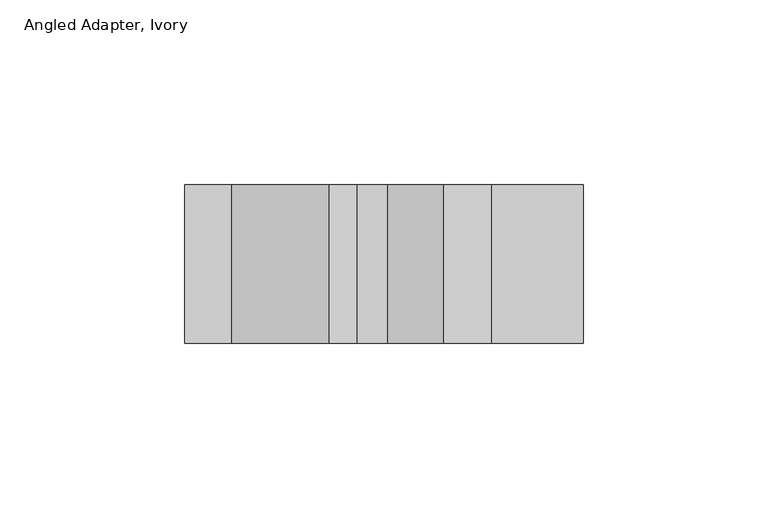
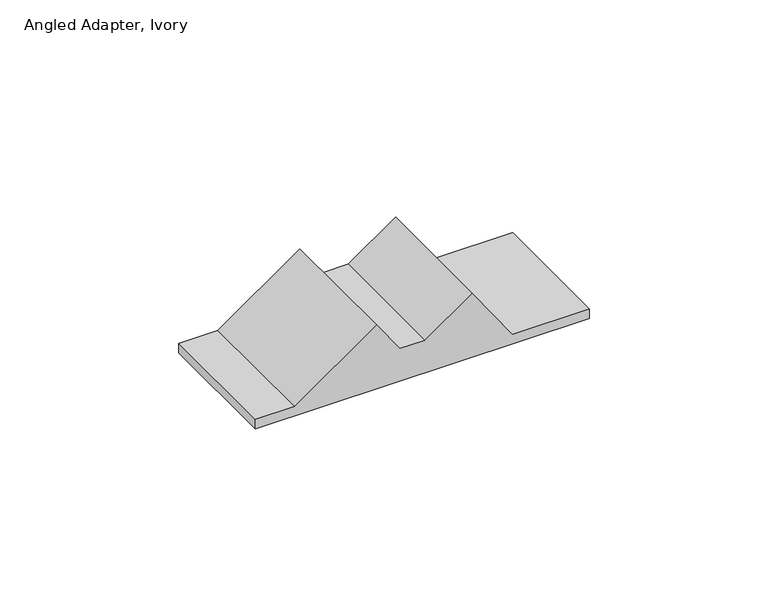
"""IFC4 building model written with IfcOpenShell, lengths in millimetres: proxy geometry, Face_Plate-4000_Series-Wiremold : Angled Adapter, Ivory."""

from ifc_helpers import new_model, si_unit, frame, origin, place, context, project, spatial, polyline, outline, extrude, source, transform, mapped, element, save


def angled_adapter_ivory_76baae0c(model_context):
    return source(origin(), model_context, "Body", "SweptSolid", [
        extrude(outline(polyline([(11.1252, 0.8391049), (11.1252, -7.2888951), (21.844, -14.7942797), (3.302, -41.275), (3.302, -53.975), (0.0, -53.975), (0.0, 53.975), (3.302, 53.975), (3.302, 29.1303859), (21.844, 16.1471378), (11.1252, 0.8391049)])), frame((0.0, -21.4376, 0.0), z_axis=(0.0, 1.0, 0.0), x_axis=(0.0, 0.0, 1.0)), (0.0, 0.0, 1.0), 42.8752),
    ])


if __name__ == "__main__":
    model = new_model("IFC4")
    model_context = context("Model", 3, world=origin())
    ifc_project = project(units=[si_unit("LENGTHUNIT", "METRE", prefix="MILLI")], contexts=[model_context])
    site = spatial("IfcSite", under=ifc_project)
    building = spatial("IfcBuilding", under=site)
    placement = place(None, origin())
    angled_adapter_ivory_shape = angled_adapter_ivory_76baae0c(model_context)
    element("IfcBuildingElementProxy", 1, Name="Face_Plate-4000_Series-Wiremold : Angled Adapter, Ivory", ObjectType="Face_Plate-4000_Series-Wiremold : Angled Adapter, Ivory", at=placement, inside=building, context=model_context, shape_type="MappedRepresentation", body=[
        mapped(angled_adapter_ivory_shape, transform((0.0, 0.0, 0.0), x_axis=(1.0, 0.0, 0.0), y_axis=(0.0, 1.0, 0.0), z_axis=(0.0, 0.0, 1.0))),
    ])
    save(model, "model.ifc")
